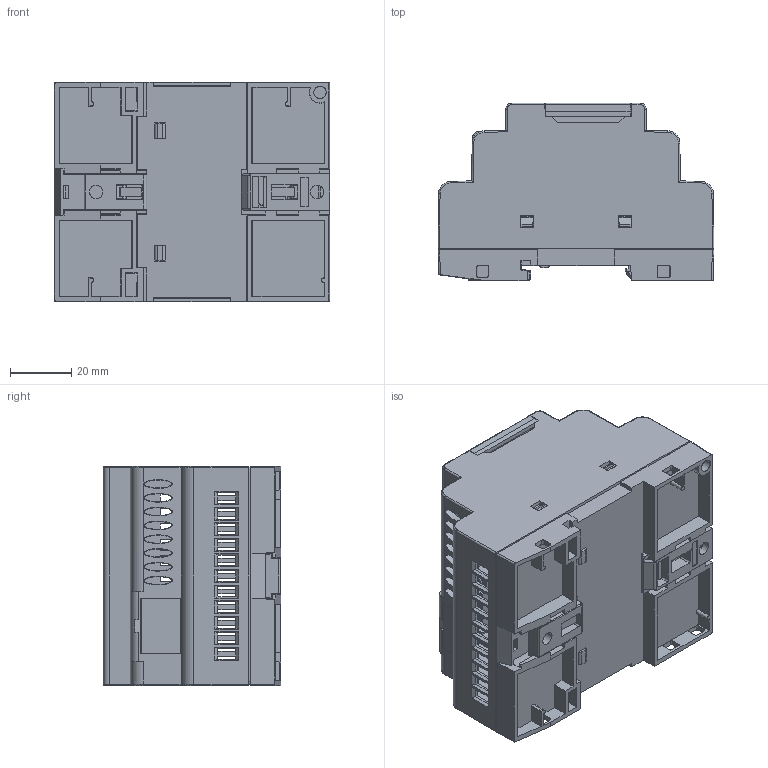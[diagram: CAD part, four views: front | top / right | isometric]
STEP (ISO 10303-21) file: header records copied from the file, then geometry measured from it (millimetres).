
FILE_DESCRIPTION (( 'STEP AP214' ), '1' );
FILE_NAME ('NEX16.STEP', '2018-02-07T12:26:32', ( '' ), ( '' ), 'SwSTEP 2.0', 'SolidWorks 2017', '' );
FILE_SCHEMA (( 'AUTOMOTIVE_DESIGN' ));
Length unit declared in the file: millimetre
Products named in the file (8): NEX16; pt_23-159-11_2; pt_23-159-12_2; pt_PRT0002; pt_PRT0001; pt_23-198-4_71; pt_23-199-2_26; pt_23-199-1__54
Assembly tree (8 placements, depth 2):
  NEX16
    pt_23-199-1__54
    pt_23-199-2_26
    pt_23-198-4_71  x2
    pt_PRT0001
    pt_PRT0002
    pt_23-159-12_2
    pt_23-159-11_2
Bounding box: 90 x 57.85 x 71.5 mm (x, y, z)
Volume: 33909.5 mm3; surface area: 72774.3 mm2
Topology: 7 solids, 13 shells, 2435 faces, 6772 edges, 4428 vertices
Faces by surface type: plane 1579, bspline 594, cylinder 220, cone 42
Entity records: 83010 total; most frequent: CARTESIAN_POINT 28995, ORIENTED_EDGE 12221, DIRECTION 8154, EDGE_CURVE 6118, VECTOR 4418, LINE 4418, VERTEX_POINT 4004, EDGE_LOOP 2475
